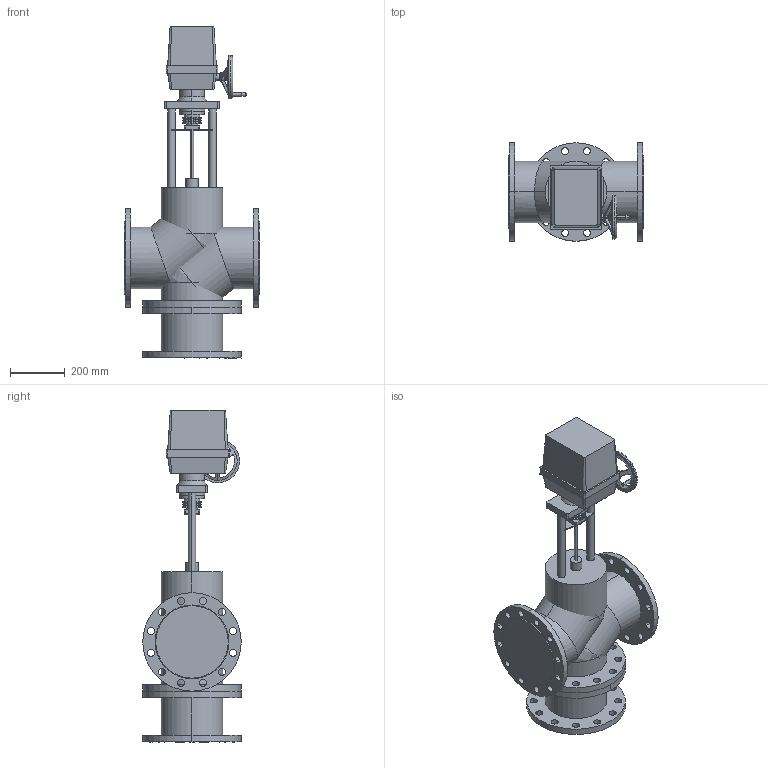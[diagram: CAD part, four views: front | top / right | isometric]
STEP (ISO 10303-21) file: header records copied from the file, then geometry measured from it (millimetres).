
FILE_DESCRIPTION(/* description */ (''),/* implementation_level */ '2;1');
FILE_NAME(/* name */ 'ТРК DN200 PN 2.5 МПа Regada ST2',/* time_stamp */ '2026-07-14T23:14:50+03:00',/* author */ (''),/* organization */ (''),/* preprocessor_version */ 'ST-DEVELOPER v20',/* originating_system */ '',/* authorisation */ '');
FILE_SCHEMA (('AP242_MANAGED_MODEL_BASED_3D_ENGINEERING_MIM_LF { 1 0 10303 442 1 1 4 }'));
Length unit declared in the file: millimetre
Products named in the file (16): TopLevelAssembly; Выдавливание; Модификатор; Модификатор_1; Выдавливание_
1; Выдавливание_
2; Вращение; Выдавливание_
3; Выдавливание_
4; Выдавливание_
5; Выдавливание_
6; Выдавливание_
7; Привод_Regada ST 2; Переход; Объемная геометрия 
присоединена; Объемная геометрия 
присоединена_1
Assembly tree (15 placements, depth 2):
  TopLevelAssembly
    Выдавливание
    Модификатор
    Модификатор_1
    Выдавливание_
1
    Выдавливание_
2
    Вращение
    Выдавливание_
3
    Выдавливание_
4
    Выдавливание_
5
    Выдавливание_
6
    Выдавливание_
7
    Привод_Regada ST 2
    Переход
    Объемная геометрия 
присоединена
    Объемная геометрия 
присоединена_1
Bounding box: 495 x 360 x 1214 mm (x, y, z)
Volume: 64757791.3 mm3; surface area: 3161801.8 mm2
Topology: 30 solids, 30 shells, 381 faces, 899 edges, 566 vertices
Faces by surface type: cylinder 212, plane 109, bspline 56, cone 4
Entity records: 12856 total; most frequent: CARTESIAN_POINT 2987, DIRECTION 2082, ORIENTED_EDGE 1778, EDGE_CURVE 889, AXIS2_PLACEMENT_3D 861, VERTEX_POINT 566, EDGE_LOOP 515, CIRCLE 497
